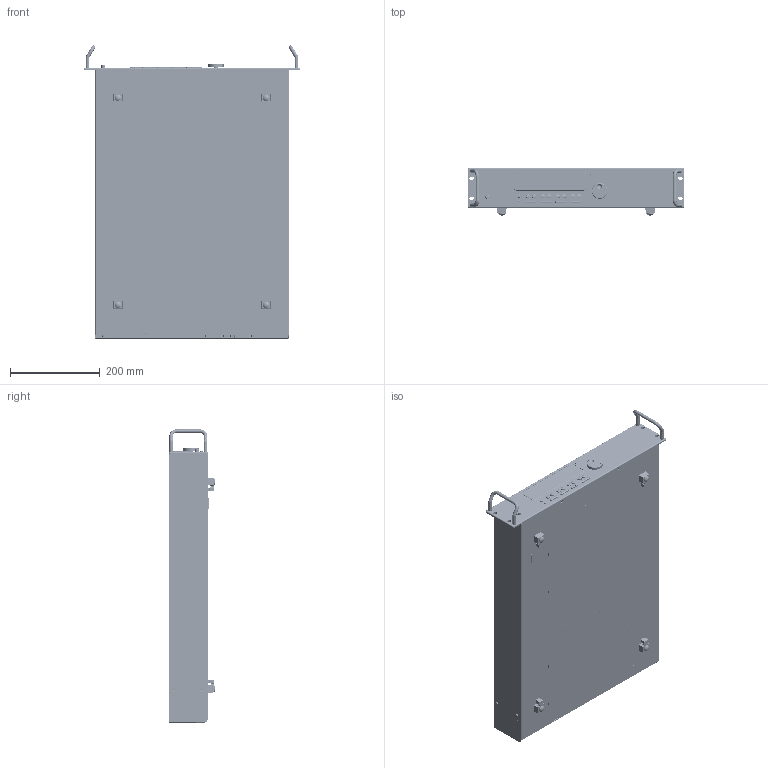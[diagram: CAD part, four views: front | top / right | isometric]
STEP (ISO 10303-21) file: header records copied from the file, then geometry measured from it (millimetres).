
FILE_DESCRIPTION((''),'2;1');
FILE_NAME('708B_ASM_ASM','2015-07-13T',('rrich'),('Keithley Instruments'),'CREO PARAMETRIC BY PTC INC, 2014440','CREO PARAMETRIC BY PTC INC, 2014440','');
FILE_SCHEMA(('CONFIG_CONTROL_DESIGN'));
Length unit declared in the file: inch
Products named in the file (195): 708B-301_1; PEM-SOS-440-8_1; PEM-FHS-632-6_1; PEM-CLS-632-2_1; PEM-FHS-440-5_1; PEM-BSOS-632-32_1; PEM-BS-632-2_1; PEM-LAC-032-2_1; PEM-AC-440-2_1; 708B-301_ASM_1_ASM; 708B-302_1; PEM-BSOS-440-10_1; 707B-312_1; POPRIVET-SD42HR_1; 708B-302_ASM_1_ASM; 708B-307_1; 708B-307_ASM_1_ASM; 708B-300_ASM_1_ASM; 2602-013-BARE_1; CS-715-4_1; SW-466_1; 7002-323-2_1; CS-287-4-PCB_1_1; CS-287-4-PCB_1_2; CS-287-4-PCB_1_3; CS-287-4-PCB_1_4; CS-287-4-PCB_1_ASM; 2602-013_ASM_1_ASM; ST-270-1_1; 4-40X1-4PPH_1; 708B-SWITCH_ASM_1_ASM; 4-40X1-4PFHUC_1; 708B-305_1; PEM-FHS-094-8_1; PEM-BSOS-440-16_1; 708B-306_1; 708B-305_ASM_1_ASM; 3706-307_1; 708B-310_1; 708B-316_1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
Assembly tree (338 placements, depth 6):
  708B_ASM_ASM
    708B_ASM_1_ASM
      708B-300_ASM_1_ASM
        708B-301_ASM_1_ASM
          708B-301_1
          PEM-SOS-440-8_1  x8
          PEM-FHS-632-6_1
          PEM-CLS-632-2_1  x5
          PEM-FHS-440-5_1  x4
          PEM-BSOS-632-32_1  x4
          PEM-BS-632-2_1  x4
          PEM-LAC-032-2_1  x4
          PEM-AC-440-2_1  x10
        708B-302_ASM_1_ASM
          708B-302_1
          PEM-BSOS-440-10_1  x6
          707B-312_1
          POPRIVET-SD42HR_1  x6
        708B-307_ASM_1_ASM
          708B-307_1
          707B-312_1
          POPRIVET-SD42HR_1  x6
        POPRIVET-SD42HR_1  x2
      708B-SWITCH_ASM_1_ASM
        2602-013_ASM_1_ASM
          2602-013-BARE_1
          CS-715-4_1
          SW-466_1
          7002-323-2_1
          CS-287-4-PCB_1_ASM
            CS-287-4-PCB_1_1
            CS-287-4-PCB_1_2
            CS-287-4-PCB_1_3
            CS-287-4-PCB_1_4
        ST-270-1_1  x2
        4-40X1-4PPH_1  x2
      4-40X1-4PFHUC_1  x17
      708B-FRONT-PANEL_ASM_1_ASM
        708B-305_ASM_1_ASM
          708B-305_1
          PEM-FHS-094-8_1  x5
          PEM-BSOS-440-16_1  x6
          708B-306_1
        3706-307_1
        708B-310_ASM_1_ASM
          708B-310_1
          708B-316_1
        708B-110_ASM_1_ASM
          708B-112_ASM_1_ASM
            708B-112_1
          DD-51_1
          CS-1066-3_1_ASM
            CS-1066-3_1_1
            CS-1066-3_1_2
            CS-1066-3_1_3
            CS-1066-3_1_4
            CS-1066-3_1_5
            CS-1066-3_1_6
            CS-1066-3_1_7
            CS-1066-3_1_8
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Bounding box: 482.6 x 104.52 x 652.9 mm (x, y, z)
Volume: 2030020.4 mm3; surface area: 2577523.7 mm2
Topology: 305 solids, 311 shells, 20464 faces, 53218 edges, 34831 vertices
Faces by surface type: plane 14063, cylinder 5289, cone 742, torus 218, bspline 88, sphere 58, extrusion 6
Entity records: 442621 total; most frequent: CARTESIAN_POINT 83804, DIRECTION 73059, ORIENTED_EDGE 72970, EDGE_CURVE 36485, VECTOR 28121, LINE 28117, VERTEX_POINT 23900, AXIS2_PLACEMENT_3D 22469
